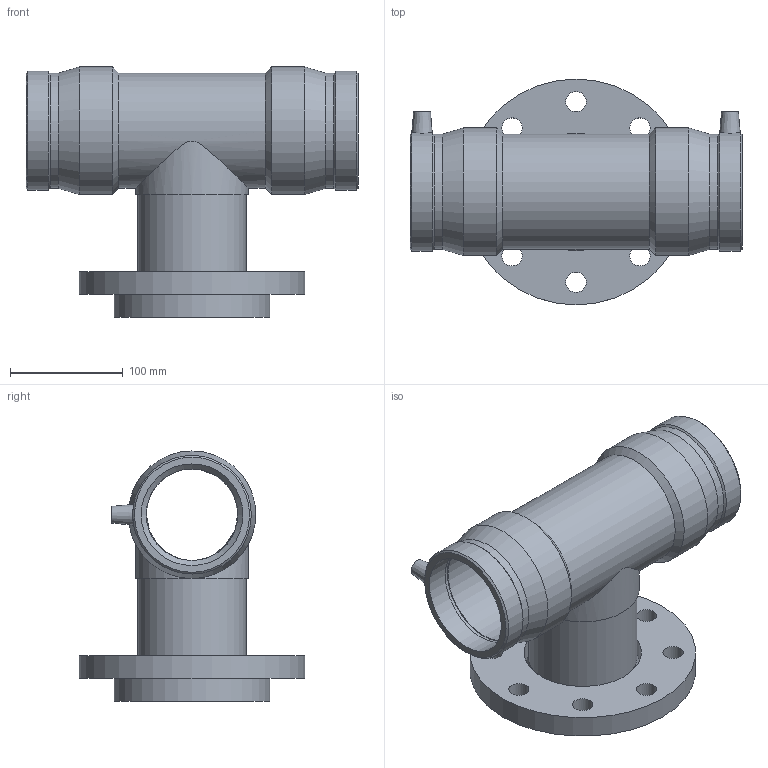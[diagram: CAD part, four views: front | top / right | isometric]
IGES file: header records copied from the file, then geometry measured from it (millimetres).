
Global section: file name: 499404090080.ipt; native system: Autodesk Inventor 2015; preprocessor: unknown; author: KIM; date: 20171106.094447; units: millimetre
Bounding box: 294 x 200 x 221.5 mm (x, y, z)
Volume: 1685944.7 mm3; surface area: 323662.9 mm2
Topology: 1 solids, 1 shells, 64 faces, 148 edges, 96 vertices
Faces by surface type: revolution 25, plane 14, cylinder 13, cone 11, bspline 1
Full cylindrical faces by diameter (mm): 4 x2, 96 x1, 100 x1, 101.7 x1, 101.937 x2, 113 x2, 138 x1, 200 x1
